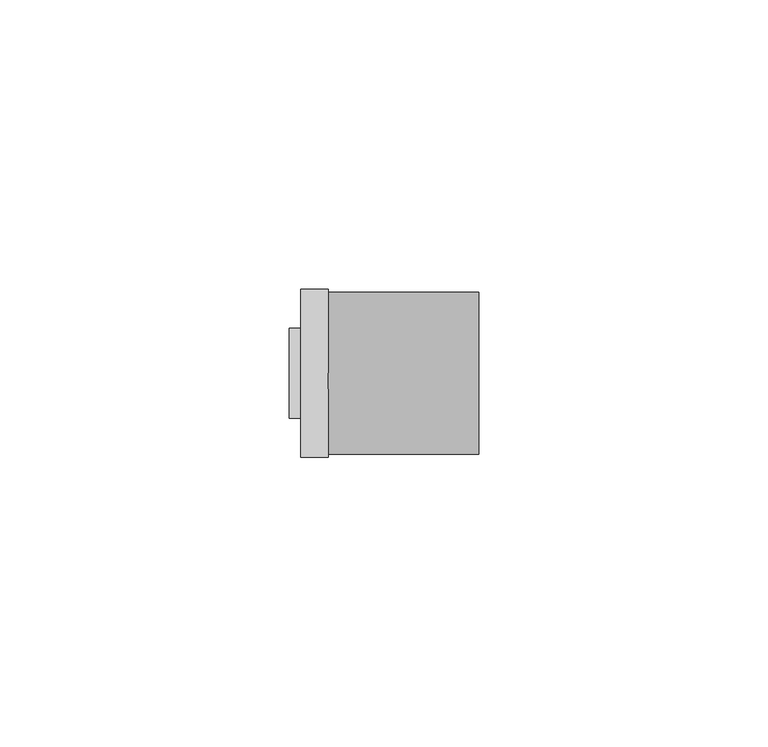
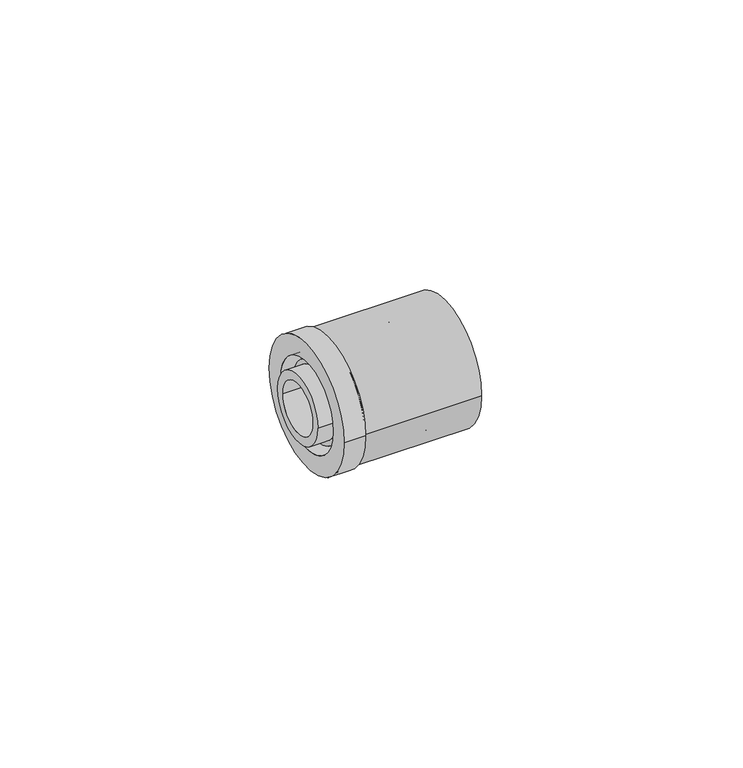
"""IFC4 building model written with IfcOpenShell, lengths in millimetres: pipe fitting geometry, FASTLOC_Blanking plug LX : FSL Bp LX CZ."""

from ifc_helpers import new_model, si_unit, point, frame, origin, origin_2d, place, context, project, spatial, polyline, circle_curve, trimmed, segment, composite_curve, outline, extrude, source, transform, mapped, element, save
from ifc_brep_helpers import plane_surface, cylinder_surface, revolved_surface, advanced_brep


def pipe_fitting_24e9e25e(model_context):
    return source(origin(), model_context, "Body", "SolidModel", [
        extrude(outline(composite_curve([segment(trimmed(circle_curve(origin_2d(), 14.0), [point((-14.0, 0.0))], [point((14.0, 0.0))], False, "CARTESIAN"), True, "CONTINUOUS"), segment(trimmed(circle_curve(origin_2d(), 14.0), [point((14.0, 0.0))], [point((-14.0, 0.0))], False, "CARTESIAN"), True, "CONTINUOUS")], self_intersect=False), holes=[composite_curve([segment(trimmed(circle_curve(origin_2d(), 10.7), [point((-10.7, 0.0))], [point((10.7, 0.0))], True, "CARTESIAN"), True, "CONTINUOUS"), segment(trimmed(circle_curve(origin_2d(), 10.7), [point((10.7, 0.0))], [point((-10.7, 0.0))], True, "CARTESIAN"), True, "CONTINUOUS")], self_intersect=False)]), frame((6.7, 0.0, 0.0), z_axis=(1.0, 0.0, 0.0), x_axis=(0.0, 1.0, 0.0)), (0.0, 0.0, 1.0), 26.0),
        advanced_brep(
        [(6.7, 14.5, 0.0), (6.7, -14.5, 0.0), (2.0, -14.5, 0.0), (2.0, 14.5, 0.0), (23.7, 11.85, 0.0), (23.7, -11.85, 0.0), (6.7, -11.85, 0.0), (6.7, 11.85, 0.0), (2.0, 10.15, 0.0), (2.0, -10.15, 0.0), (23.7, -10.15, 0.0), (23.7, 10.15, 0.0)],
        [
            (0, 1, circle_curve(frame((6.7, 0.0, 0.0), z_axis=(-1.0, 0.0, 0.0), x_axis=(0.0, -1.0, 0.0)), 14.5)),
            (1, 2),
            (2, 3, circle_curve(frame((2.0, 0.0, 0.0), z_axis=(1.0, 0.0, 0.0), x_axis=(0.0, -1.0, 0.0)), 14.5)),
            (3, 0),
            (4, 5, circle_curve(frame((23.7, 0.0, 0.0), z_axis=(-1.0, 0.0, 0.0), x_axis=(0.0, -1.0, 0.0)), 11.85)),
            (5, 6),
            (6, 7, circle_curve(frame((6.7, 0.0, 0.0), z_axis=(1.0, 0.0, 0.0), x_axis=(0.0, -1.0, 0.0)), 11.85)),
            (7, 4),
            (8, 9, circle_curve(frame((2.0, 0.0, 0.0), z_axis=(-1.0, 0.0, 0.0), x_axis=(0.0, -1.0, 0.0)), 10.15)),
            (9, 10),
            (10, 11, circle_curve(frame((23.7, 0.0, 0.0), z_axis=(1.0, 0.0, 0.0), x_axis=(0.0, -1.0, 0.0)), 10.15)),
            (11, 8),
            (1, 0, circle_curve(frame((6.7, 0.0, 0.0), z_axis=(-1.0, 0.0, 0.0), x_axis=(0.0, 1.0, 0.0)), 14.5)),
            (3, 2, circle_curve(frame((2.0, 0.0, 0.0), z_axis=(1.0, 0.0, 0.0), x_axis=(0.0, 1.0, 0.0)), 14.5)),
            (6, 7, circle_curve(frame((6.7, 0.0, 0.0), z_axis=(-1.0, 0.0, 0.0), x_axis=(0.0, 1.0, 0.0)), 11.85)),
            (5, 4, circle_curve(frame((23.7, 0.0, 0.0), z_axis=(-1.0, 0.0, 0.0), x_axis=(0.0, 1.0, 0.0)), 11.85)),
            (10, 11, circle_curve(frame((23.7, 0.0, 0.0), z_axis=(-1.0, 0.0, 0.0), x_axis=(0.0, 1.0, 0.0)), 10.15)),
            (9, 8, circle_curve(frame((2.0, 0.0, 0.0), z_axis=(-1.0, 0.0, 0.0), x_axis=(0.0, 1.0, 0.0)), 10.15)),
        ],
        [
            cylinder_surface(frame((2.0, 0.0, 0.0), z_axis=(1.0, 0.0, 0.0), x_axis=(0.0, -1.0, 0.0)), 14.5),
            cylinder_surface(frame((2.0, 0.0, 0.0), z_axis=(1.0, 0.0, 0.0), x_axis=(0.0, -1.0, 0.0)), 11.85),
            revolved_surface(polyline([(23.7, -10.15, 0.0), (2.0, -10.15, 0.0)]), (2.0, 0.0, 0.0), (1.0, 0.0, 0.0)),
            cylinder_surface(frame((2.0, 0.0, 0.0), z_axis=(1.0, 0.0, 0.0), x_axis=(0.0, 1.0, 0.0)), 14.5),
            plane_surface(frame((6.7, 0.0, 0.0), z_axis=(1.0, 0.0, 0.0), x_axis=(0.0, 1.0, 0.0))),
            cylinder_surface(frame((2.0, 0.0, 0.0), z_axis=(1.0, 0.0, 0.0), x_axis=(0.0, 1.0, 0.0)), 11.85),
            plane_surface(frame((23.7, 0.0, 0.0), z_axis=(1.0, 0.0, 0.0), x_axis=(0.0, 1.0, 0.0))),
            revolved_surface(polyline([(23.7, 10.15, 0.0), (2.0, 10.15, 0.0)]), (2.0, 0.0, 0.0), (1.0, 0.0, 0.0)),
            plane_surface(frame((2.0, 0.0, 0.0), z_axis=(-1.0, 0.0, 0.0), x_axis=(0.0, 1.0, 0.0))),
        ],
        [
            (0, [[1, 2, 3, 4]]),
            (1, [[5, 6, 7, 8]]),
            (2, [[9, 10, 11, 12]]),
            (3, [[13, -4, 14, -2]]),
            (4, [[-13, -1], [15, -7]]),
            (5, [[16, -8, -15, -6]]),
            (6, [[-16, -5], [17, -11]]),
            (7, [[18, -12, -17, -10]]),
            (8, [[-14, -3], [-18, -9]]),
        ],
    ),
        advanced_brep(
        [(0.0, 5.75, 0.0), (0.0, -5.75, 0.0), (24.9, -5.75, 0.0), (24.9, 5.75, 0.0), (4.0, 7.75, 0.0), (4.0, -7.75, 0.0), (0.0, -7.75, 0.0), (0.0, 7.75, 0.0), (6.7, 8.8, 0.0), (6.7, -8.8, 0.0), (4.0, -8.8, 0.0), (4.0, 8.8, 0.0), (24.9, 7.75, 0.0), (24.9, -7.75, 0.0), (6.7, -7.75, 0.0), (6.7, 7.75, 0.0)],
        [
            (0, 1, circle_curve(frame((0.0, 0.0, 0.0), z_axis=(-1.0, 0.0, 0.0), x_axis=(0.0, -1.0, 0.0)), 5.75)),
            (1, 2),
            (2, 3, circle_curve(frame((24.9, 0.0, 0.0), z_axis=(1.0, 0.0, 0.0), x_axis=(0.0, -1.0, 0.0)), 5.75)),
            (3, 0),
            (4, 5, circle_curve(frame((4.0, 0.0, 0.0), z_axis=(-1.0, 0.0, 0.0), x_axis=(0.0, -1.0, 0.0)), 7.75)),
            (5, 6),
            (6, 7, circle_curve(frame((0.0, 0.0, 0.0), z_axis=(1.0, 0.0, 0.0), x_axis=(0.0, -1.0, 0.0)), 7.75)),
            (7, 4),
            (8, 9, circle_curve(frame((6.7, 0.0, 0.0), z_axis=(-1.0, 0.0, 0.0), x_axis=(0.0, -1.0, 0.0)), 8.8)),
            (9, 10),
            (10, 11, circle_curve(frame((4.0, 0.0, 0.0), z_axis=(1.0, 0.0, 0.0), x_axis=(0.0, -1.0, 0.0)), 8.8)),
            (11, 8),
            (12, 13, circle_curve(frame((24.9, 0.0, 0.0), z_axis=(-1.0, 0.0, 0.0), x_axis=(0.0, -1.0, 0.0)), 7.75)),
            (13, 14),
            (14, 15, circle_curve(frame((6.7, 0.0, 0.0), z_axis=(1.0, 0.0, 0.0), x_axis=(0.0, -1.0, 0.0)), 7.75)),
            (15, 12),
            (1, 0, circle_curve(frame((0.0, 0.0, 0.0), z_axis=(-1.0, 0.0, 0.0), x_axis=(0.0, 1.0, 0.0)), 5.75)),
            (3, 2, circle_curve(frame((24.9, 0.0, 0.0), z_axis=(1.0, 0.0, 0.0), x_axis=(0.0, 1.0, 0.0)), 5.75)),
            (6, 7, circle_curve(frame((0.0, 0.0, 0.0), z_axis=(-1.0, 0.0, 0.0), x_axis=(0.0, 1.0, 0.0)), 7.75)),
            (5, 4, circle_curve(frame((4.0, 0.0, 0.0), z_axis=(-1.0, 0.0, 0.0), x_axis=(0.0, 1.0, 0.0)), 7.75)),
            (10, 11, circle_curve(frame((4.0, 0.0, 0.0), z_axis=(-1.0, 0.0, 0.0), x_axis=(0.0, 1.0, 0.0)), 8.8)),
            (9, 8, circle_curve(frame((6.7, 0.0, 0.0), z_axis=(-1.0, 0.0, 0.0), x_axis=(0.0, 1.0, 0.0)), 8.8)),
            (14, 15, circle_curve(frame((6.7, 0.0, 0.0), z_axis=(-1.0, 0.0, 0.0), x_axis=(0.0, 1.0, 0.0)), 7.75)),
            (13, 12, circle_curve(frame((24.9, 0.0, 0.0), z_axis=(-1.0, 0.0, 0.0), x_axis=(0.0, 1.0, 0.0)), 7.75)),
        ],
        [
            revolved_surface(polyline([(24.9, -5.75, 0.0), (0.0, -5.75, 0.0)]), (0.0, 0.0, 0.0), (1.0, 0.0, 0.0)),
            cylinder_surface(frame((0.0, 0.0, 0.0), z_axis=(1.0, 0.0, 0.0), x_axis=(0.0, -1.0, 0.0)), 7.75),
            cylinder_surface(frame((0.0, 0.0, 0.0), z_axis=(1.0, 0.0, 0.0), x_axis=(0.0, -1.0, 0.0)), 8.8),
            revolved_surface(polyline([(24.9, 5.75, 0.0), (0.0, 5.75, 0.0)]), (0.0, 0.0, 0.0), (1.0, 0.0, 0.0)),
            plane_surface(frame((0.0, 0.0, 0.0), z_axis=(-1.0, 0.0, 0.0), x_axis=(0.0, 1.0, 0.0))),
            cylinder_surface(frame((0.0, 0.0, 0.0), z_axis=(1.0, 0.0, 0.0), x_axis=(0.0, 1.0, 0.0)), 7.75),
            plane_surface(frame((4.0, 0.0, 0.0), z_axis=(-1.0, 0.0, 0.0), x_axis=(0.0, 1.0, 0.0))),
            cylinder_surface(frame((0.0, 0.0, 0.0), z_axis=(1.0, 0.0, 0.0), x_axis=(0.0, 1.0, 0.0)), 8.8),
            plane_surface(frame((6.7, 0.0, 0.0), z_axis=(1.0, 0.0, 0.0), x_axis=(0.0, 1.0, 0.0))),
            plane_surface(frame((24.9, 0.0, 0.0), z_axis=(1.0, 0.0, 0.0), x_axis=(0.0, 1.0, 0.0))),
        ],
        [
            (0, [[1, 2, 3, 4]]),
            (1, [[5, 6, 7, 8]]),
            (2, [[9, 10, 11, 12]]),
            (1, [[13, 14, 15, 16]]),
            (3, [[17, -4, 18, -2]]),
            (4, [[19, -7], [-17, -1]]),
            (5, [[20, -8, -19, -6]]),
            (6, [[21, -11], [-20, -5]]),
            (7, [[22, -12, -21, -10]]),
            (8, [[-22, -9], [23, -15]]),
            (5, [[24, -16, -23, -14]]),
            (9, [[-24, -13], [-18, -3]]),
        ],
    ),
    ])


if __name__ == "__main__":
    model = new_model("IFC4")
    model_context = context("Model", 3, world=origin())
    ifc_project = project(units=[si_unit("LENGTHUNIT", "METRE", prefix="MILLI")], contexts=[model_context])
    site = spatial("IfcSite", under=ifc_project)
    building = spatial("IfcBuilding", under=site)
    placement = place(None, origin())
    pipe_fitting_shape = pipe_fitting_24e9e25e(model_context)
    element("IfcPipeFitting", 1, ObjectType="FASTLOC_Blanking plug LX : FSL Bp LX CZ", at=placement, inside=building, context=model_context, shape_type="MappedRepresentation", body=[
        mapped(pipe_fitting_shape, transform((0.0, 0.0, 0.0), x_axis=(1.0, 0.0, 0.0), y_axis=(0.0, 1.0, 0.0), z_axis=(0.0, 0.0, 1.0))),
    ])
    save(model, "model.ifc")
